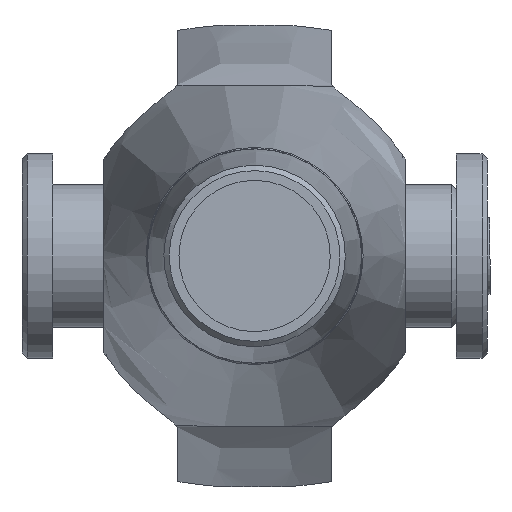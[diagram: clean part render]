
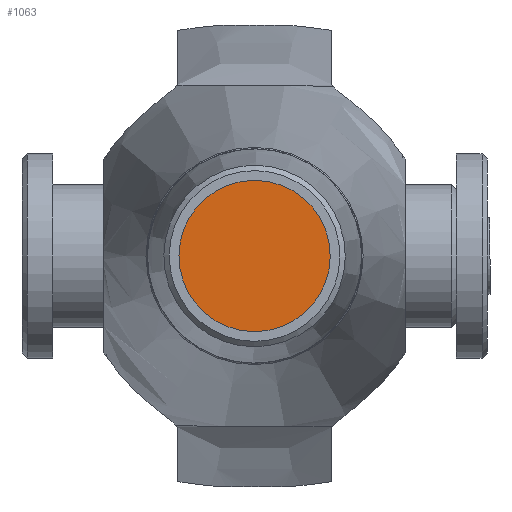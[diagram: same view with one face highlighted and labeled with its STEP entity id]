
A CAD part, left-side view. The second image highlights one B-rep face of the part: STEP entity #1063.
In plain terms, the highlighted planar face has unit normal (-1, 0, 0).
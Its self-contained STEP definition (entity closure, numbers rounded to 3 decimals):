
#84=PLANE('',#1161);
#116=FACE_OUTER_BOUND('',#180,.T.);
#180=EDGE_LOOP('',(#701,#702));
#359=CIRCLE('',#1159,7.4);
#360=CIRCLE('',#1160,7.4);
#427=VERTEX_POINT('',#1618);
#428=VERTEX_POINT('',#1620);
#537=EDGE_CURVE('',#428,#427,#359,.T.);
#538=EDGE_CURVE('',#427,#428,#360,.T.);
#701=ORIENTED_EDGE('',*,*,#537,.T.);
#702=ORIENTED_EDGE('',*,*,#538,.T.);
#1063=ADVANCED_FACE('',(#116),#84,.T.);
#1159=AXIS2_PLACEMENT_3D('',#1621,#1310,#1311);
#1160=AXIS2_PLACEMENT_3D('',#1622,#1312,#1313);
#1161=AXIS2_PLACEMENT_3D('',#1623,#1314,#1315);
#1310=DIRECTION('center_axis',(-1.,0.,0.));
#1311=DIRECTION('ref_axis',(0.,0.49,0.872));
#1312=DIRECTION('center_axis',(-1.,0.,0.));
#1313=DIRECTION('ref_axis',(0.,0.49,0.872));
#1314=DIRECTION('center_axis',(-1.,0.,0.));
#1315=DIRECTION('ref_axis',(0.,0.49,0.872));
#1618=CARTESIAN_POINT('',(-168.,6.449,-3.629));
#1620=CARTESIAN_POINT('',(-168.,-6.449,3.629));
#1621=CARTESIAN_POINT('Origin',(-168.,0.,0.));
#1622=CARTESIAN_POINT('Origin',(-168.,0.,0.));
#1623=CARTESIAN_POINT('Origin',(-168.,0.,0.));
